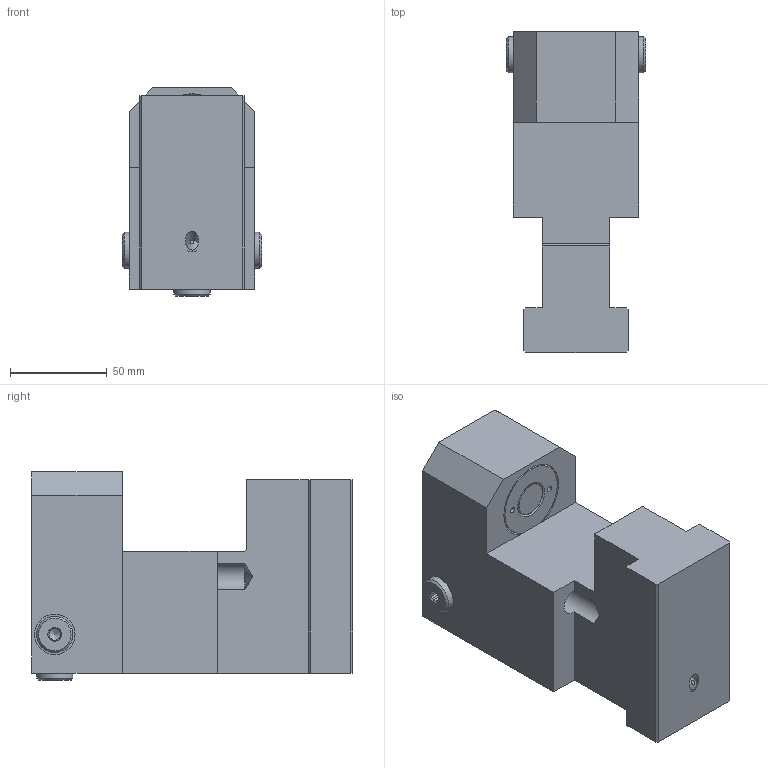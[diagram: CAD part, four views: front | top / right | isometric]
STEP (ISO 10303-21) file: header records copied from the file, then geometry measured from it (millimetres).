
FILE_DESCRIPTION(/* description */ (''),/* implementation_level */ '2;1');
FILE_NAME(/* name */ 'S:\EASCN Vault\Designs\Standard Part\T-SLOT\MTC CLAMPS\MTC30\MTC30-36-XX.stp',/* time_stamp */ '2020-05-19T10:08:36+08:00',/* author */ ('yue.yang'),/* organization */ (''),/* preprocessor_version */ 'ST-DEVELOPER v17',/* originating_system */ 'Autodesk Inventor 2019',/* authorisation */ '');
FILE_SCHEMA (('AUTOMOTIVE_DESIGN { 1 0 10303 214 3 1 1 }'));
Length unit declared in the file: millimetre
Products named in the file (1): MTC30-36-XX_Shrinkwrap_1
Bounding box: 72.2 x 166.14 x 107.6 mm (x, y, z)
Volume: 747945.4 mm3; surface area: 121502.3 mm2
Topology: 13 solids, 13 shells, 446 faces, 1215 edges, 832 vertices
Faces by surface type: plane 245, bspline 85, cylinder 62, cone 37, torus 16, sphere 1
Full cylindrical faces by diameter (mm): 3 x2, 4 x1, 6 x3, 6.8 x1, 8 x1, 11.2 x3, 11.445 x4, 11.6 x3, 12 x1, 13.157 x3, 13.835 x2, 16 x2, 16.4 x3, 16.8 x3, 17 x2, 17.95 x1, 18.1 x1, 18.8 x3, 21 x3, 23 x2, 24 x2, 25.9 x1, 26 x2, 31 x1, 31.97 x2, 32.02 x1, 32.5 x1, 38 x1, 40 x1, 41 x1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
Entity records: 15265 total; most frequent: CARTESIAN_POINT 3796, ORIENTED_EDGE 2416, DIRECTION 2044, EDGE_CURVE 1208, VERTEX_POINT 832, AXIS2_PLACEMENT_3D 707, LINE 630, VECTOR 630
